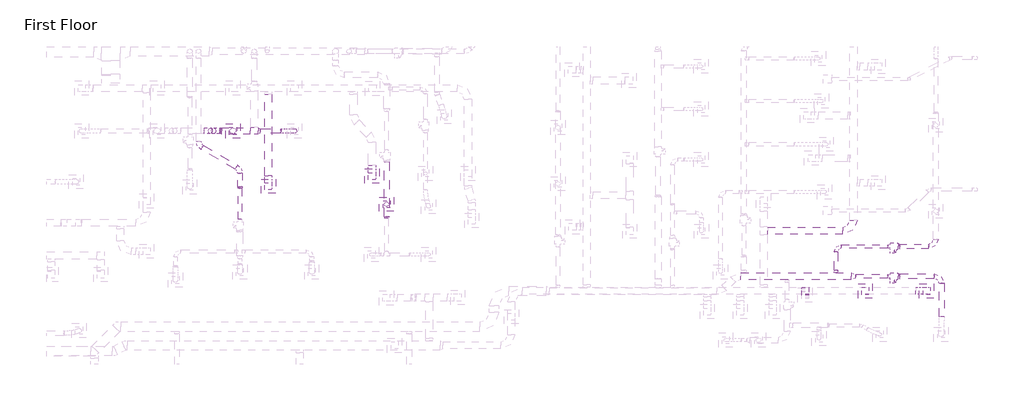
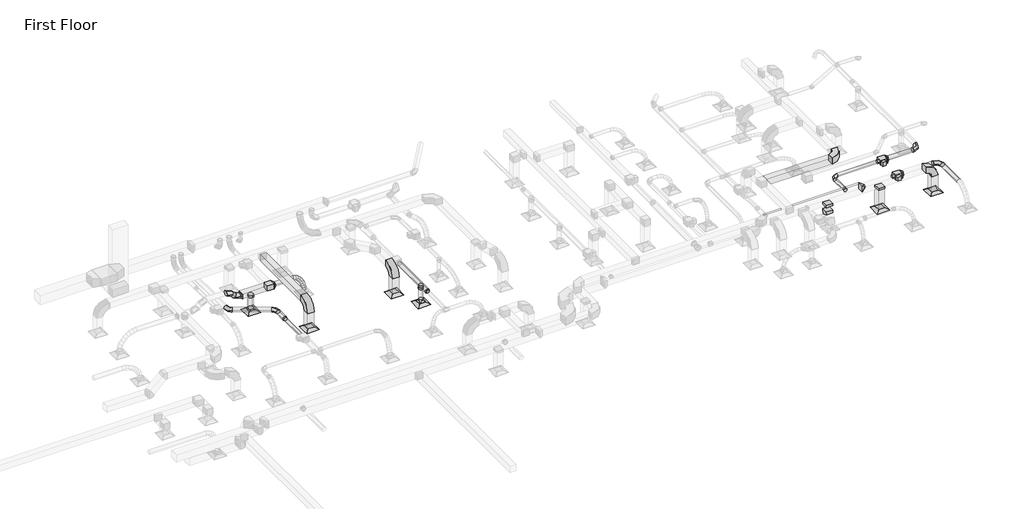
# One storey, part 22 of 61: 27 duct fittings, 24 duct segments, 6 air terminals, 2 proxies.
"""IFC4 building model written with IfcOpenShell, lengths in millimetres."""

from ifc_helpers import new_model, si_unit, point, frame, frame_2d, origin, place, context, project, spatial, polyline, circle_curve, ellipse_curve, trimmed, segment, composite_curve, outline, extrude, transform, mapped, element, save
from ifc_brep_helpers import plane_surface, cylinder_surface, advanced_brep
from components import m_exhaust_grill_er_600_x_600_face_300_x_300_connection_ff221211, m_vav_unit_single_duct_150_mm_ffdab17b, m_rectangular_elbow_radius_1_5_w_86011e9f, m_rectangular_elbow_radius_1_5_w_cf455037, m_rectangular_takeoff_standard_c00386d1, m_rectangular_takeoff_standard_b44bfa45, m_rectangular_tee_standard_b73c3011, m_rectangular_to_round_transition_angle_45_degree_60daae35, m_rectangular_to_round_transition_angle_45_degree_1b7ae117, m_rectangular_to_round_transition_angle_45_degree_5bab159d, m_rectangular_to_round_transition_angle_45_degree_bcd8e40a, m_rectangular_to_round_transition_angle_45_degree_fab4045a, m_rectangular_to_round_transition_angle_45_degree_e507fccd, m_round_elbow_1_5_d_2e586196, m_round_elbow_1_5_d_b7bc3624, m_round_elbow_1_5_d_6facac79, m_round_elbow_1_5_d_0fd14416, m_round_takeoff_standard_2721f8a4, m_round_takeoff_standard_3c6c0435, m_round_takeoff_standard_c62ca294, m_round_transition_angle_45_degree_3fc7b733, m_round_transition_angle_45_degree_6d7b59ce

model = new_model("IFC4")

# Units and contexts
model_context = context("Model", 3, world=origin())
ifc_project = project(units=[si_unit("LENGTHUNIT", "METRE", prefix="MILLI")], contexts=[model_context])

# Site, building, storey
site = spatial("IfcSite", under=ifc_project)
building = spatial("IfcBuilding", under=site)
storey = spatial("IfcBuildingStorey", under=building, Name="First Floor", Elevation=0.0)

# Air terminals
placement = place(None, origin())
m_exhaust_grill_er_600_x_600_face_300_x_300_connection_shape = m_exhaust_grill_er_600_x_600_face_300_x_300_connection_ff221211(model_context)
element("IfcAirTerminal", 1, ObjectType="M_Return Register : RR-600 x 600 Face 300 x 300 Connection", at=placement, inside=storey, context=model_context, shape_type="MappedRepresentation", body=[
    mapped(m_exhaust_grill_er_600_x_600_face_300_x_300_connection_shape, transform((-1444.6339581, 13054.4648445, 2680.0), x_axis=(1.0, 0.0, 0.0), y_axis=(0.0, 1.0, 0.0), z_axis=(0.0, 0.0, 1.0))),
])
element("IfcAirTerminal", 2, ObjectType="M_Return Register : RR-600 x 600 Face 300 x 300 Connection", at=placement, inside=storey, context=model_context, shape_type="MappedRepresentation", body=[
    mapped(m_exhaust_grill_er_600_x_600_face_300_x_300_connection_shape, transform((-4013.3755572, 13054.4648445, 2680.0), x_axis=(1.0, 0.0, 0.0), y_axis=(0.0, 1.0, 0.0), z_axis=(0.0, 0.0, 1.0))),
])
element("IfcAirTerminal", 3, ObjectType="M_Return Register : RR-600 x 600 Face 300 x 300 Connection", at=placement, inside=storey, context=model_context, shape_type="MappedRepresentation", body=[
    mapped(m_exhaust_grill_er_600_x_600_face_300_x_300_connection_shape, transform((-24645.9664299, 17856.3682624, 2680.0), x_axis=(1.0, 0.0, 0.0), y_axis=(0.0, 1.0, 0.0), z_axis=(0.0, 0.0, 1.0))),
])
element("IfcAirTerminal", 4, ObjectType="M_Return Register : RR-600 x 600 Face 300 x 300 Connection", at=placement, inside=storey, context=model_context, shape_type="MappedRepresentation", body=[
    mapped(m_exhaust_grill_er_600_x_600_face_300_x_300_connection_shape, transform((-28982.8236084, 17431.5961294, 2680.0), x_axis=(1.0, 0.0, 0.0), y_axis=(0.0, 1.0, 0.0), z_axis=(0.0, 0.0, 1.0))),
])
element("IfcAirTerminal", 5, ObjectType="M_Supply Diffuser : SD-600 x 600 Face 300 x 300 Connection", at=placement, inside=storey, context=model_context, shape_type="MappedRepresentation", body=[
    mapped(m_exhaust_grill_er_600_x_600_face_300_x_300_connection_shape, transform((-30462.8586725, 19747.3013059, 2680.0), x_axis=(1.0, 0.0, 0.0), y_axis=(0.0, 1.0, 0.0), z_axis=(0.0, 0.0, 1.0))),
])
element("IfcAirTerminal", 6, ObjectType="M_Supply Diffuser : SD-600 x 600 Face 300 x 300 Connection", at=placement, inside=storey, context=model_context, shape_type="MappedRepresentation", body=[
    mapped(m_exhaust_grill_er_600_x_600_face_300_x_300_connection_shape, transform((-24034.890372, 16681.6358863, 2680.0), x_axis=(1.0, 0.0, 0.0), y_axis=(0.0, 1.0, 0.0), z_axis=(0.0, 0.0, 1.0))),
])

# Proxies
m_vav_unit_single_duct_150_mm_shape = m_vav_unit_single_duct_150_mm_ffdab17b(model_context)
element("IfcBuildingElementProxy", 7, Name="M_VAV Unit - Single Duct : 150 mm", ObjectType="M_VAV Unit - Single Duct : 150 mm", at=placement, inside=storey, context=model_context, shape_type="MappedRepresentation", body=[
    mapped(m_vav_unit_single_duct_150_mm_shape, transform((-2971.6072799, 13665.2648697, 3499.97496), x_axis=(1.0, 0.0, 0.0), y_axis=(0.0, 1.0, 0.0), z_axis=(0.0, 0.0, 1.0))),
])
element("IfcBuildingElementProxy", 8, Name="M_VAV Unit - Single Duct : 150 mm", ObjectType="M_VAV Unit - Single Duct : 150 mm", at=placement, inside=storey, context=model_context, shape_type="MappedRepresentation", body=[
    mapped(m_vav_unit_single_duct_150_mm_shape, transform((-2971.6072799, 14916.6573912, 3500.0), x_axis=(1.0, 0.0, 0.0), y_axis=(0.0, 1.0, 0.0), z_axis=(0.0, 0.0, 1.0))),
])

# Duct fittings
m_rectangular_elbow_radius_1_5_w_shape = m_rectangular_elbow_radius_1_5_w_86011e9f(model_context)
element("IfcDuctFitting", 9, ObjectType="M_Rectangular Elbow - Radius : 1.5 W", at=placement, inside=storey, context=model_context, shape_type="MappedRepresentation", body=[
    mapped(m_rectangular_elbow_radius_1_5_w_shape, transform((-1444.6339581, 13054.4648445, 4000.0), x_axis=(0.0, 0.0, 1.0), y_axis=(-1.0, 0.0, 0.0), z_axis=(0.0, -1.0, 0.0))),
])
element("IfcDuctFitting", 10, ObjectType="M_Rectangular Elbow - Radius : 1.5 W", at=placement, inside=storey, context=model_context, shape_type="MappedRepresentation", body=[
    mapped(m_rectangular_elbow_radius_1_5_w_shape, transform((-4500.4325102, 15569.0358848, 4000.0), x_axis=(1.0, 0.0, 0.0), y_axis=(0.0, 1.0, 0.0), z_axis=(0.0, 0.0, 1.0))),
])
element("IfcDuctFitting", 11, ObjectType="M_Rectangular Elbow - Radius : 1.5 W", at=placement, inside=storey, context=model_context, shape_type="MappedRepresentation", body=[
    mapped(m_rectangular_elbow_radius_1_5_w_shape, transform((-28982.8236084, 17431.5961294, 4000.0), x_axis=(0.0, 0.0, 1.0), y_axis=(0.0, 1.0, 0.0), z_axis=(-1.0, 0.0, 0.0))),
])
element("IfcDuctFitting", 12, ObjectType="M_Rectangular Elbow - Radius : 1.5 W", at=placement, inside=storey, context=model_context, shape_type="MappedRepresentation", body=[
    mapped(m_rectangular_elbow_radius_1_5_w_shape, transform((-24645.9664299, 17856.3682624, 4000.0), x_axis=(0.0, 0.0, 1.0), y_axis=(0.0, 1.0, 0.0), z_axis=(-1.0, 0.0, 0.0))),
])
m_rectangular_elbow_radius_1_5_w_2_shape = m_rectangular_elbow_radius_1_5_w_cf455037(model_context)
element("IfcDuctFitting", 13, ObjectType="M_Rectangular Elbow - Radius : 1.5 W", at=placement, inside=storey, context=model_context, shape_type="MappedRepresentation", body=[
    mapped(m_rectangular_elbow_radius_1_5_w_2_shape, transform((-6528.2669518, 13054.4648445, 3437.9257886), x_axis=(0.0, 0.42261826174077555, 0.9063077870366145), y_axis=(0.0, -0.9063077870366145, 0.42261826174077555), z_axis=(1.0, 0.0, 0.0))),
])
m_rectangular_takeoff_standard_shape = m_rectangular_takeoff_standard_c00386d1(model_context)
element("IfcDuctFitting", 14, ObjectType="M_Rectangular Takeoff : Standard", at=placement, inside=storey, context=model_context, shape_type="MappedRepresentation", body=[
    mapped(m_rectangular_takeoff_standard_shape, transform((-6528.2669518, 13054.4648445, 3850.0), x_axis=(0.0, 0.0, -1.0), y_axis=(-1.0, 0.0, 0.0), z_axis=(0.0, 1.0, 0.0))),
])
m_rectangular_takeoff_standard_2_shape = m_rectangular_takeoff_standard_b44bfa45(model_context)
element("IfcDuctFitting", 15, ObjectType="M_Rectangular Takeoff : Standard", at=placement, inside=storey, context=model_context, shape_type="MappedRepresentation", body=[
    mapped(m_rectangular_takeoff_standard_2_shape, transform((-4013.3755572, 13054.4648445, 3850.0), x_axis=(0.0, 0.0, -1.0), y_axis=(1.0, 0.0, 0.0), z_axis=(0.0, -1.0, 0.0))),
])
m_rectangular_tee_standard_shape = m_rectangular_tee_standard_b73c3011(model_context)
element("IfcDuctFitting", 16, ObjectType="M_Rectangular Tee : Standard", at=placement, inside=storey, context=model_context, shape_type="MappedRepresentation", body=[
    mapped(m_rectangular_tee_standard_shape, transform((-29574.4400538, 19747.3013059, 3644.1), x_axis=(-1.0, 0.0, 0.0), y_axis=(0.0, -1.0, 0.0), z_axis=(0.0, 0.0, 1.0))),
])
m_rectangular_to_round_transition_angle_45_degree_shape = m_rectangular_to_round_transition_angle_45_degree_60daae35(model_context)
element("IfcDuctFitting", 17, ObjectType="M_Rectangular to Round Transition - Angle : 45 Degree", at=placement, inside=storey, context=model_context, shape_type="MappedRepresentation", body=[
    mapped(m_rectangular_to_round_transition_angle_45_degree_shape, transform((-24034.890372, 16681.6358863, 2781.6), x_axis=(0.0, 0.0, 1.0), y_axis=(1.0, 0.0, 0.0), z_axis=(0.0, 1.0, 0.0))),
])
m_rectangular_to_round_transition_angle_45_degree_2_shape = m_rectangular_to_round_transition_angle_45_degree_1b7ae117(model_context)
element("IfcDuctFitting", 18, ObjectType="M_Rectangular to Round Transition - Angle : 45 Degree", at=placement, inside=storey, context=model_context, shape_type="MappedRepresentation", body=[
    mapped(m_rectangular_to_round_transition_angle_45_degree_2_shape, transform((-2628.8072799, 13665.2648697, 3619.02496), x_axis=(1.0, 0.0, 0.0), y_axis=(0.0, 1.0, 0.0), z_axis=(0.0, 0.0, 1.0))),
])
element("IfcDuctFitting", 19, ObjectType="M_Rectangular to Round Transition - Angle : 45 Degree", at=placement, inside=storey, context=model_context, shape_type="MappedRepresentation", body=[
    mapped(m_rectangular_to_round_transition_angle_45_degree_2_shape, transform((-2628.8072799, 14916.6573912, 3619.05), x_axis=(1.0, 0.0, 0.0), y_axis=(0.0, 1.0, 0.0), z_axis=(0.0, 0.0, 1.0))),
])
m_rectangular_to_round_transition_angle_45_degree_3_shape = m_rectangular_to_round_transition_angle_45_degree_5bab159d(model_context)
element("IfcDuctFitting", 20, ObjectType="M_Rectangular to Round Transition - Angle : 45 Degree", at=placement, inside=storey, context=model_context, shape_type="MappedRepresentation", body=[
    mapped(m_rectangular_to_round_transition_angle_45_degree_3_shape, transform((-30462.8586725, 19747.3013059, 2781.6), x_axis=(0.0, 0.0, 1.0), y_axis=(0.0, 1.0, 0.0), z_axis=(-1.0, 0.0, 0.0))),
])
m_rectangular_to_round_transition_angle_45_degree_4_shape = m_rectangular_to_round_transition_angle_45_degree_bcd8e40a(model_context)
element("IfcDuctFitting", 21, ObjectType="M_Rectangular to Round Transition - Angle : 45 Degree", at=placement, inside=storey, context=model_context, shape_type="MappedRepresentation", body=[
    mapped(m_rectangular_to_round_transition_angle_45_degree_4_shape, transform((-4593.562619, 13666.1148697, 3609.497913), x_axis=(0.9999999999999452, 0.0, -3.312819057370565e-07), y_axis=(0.0, 1.0, 0.0), z_axis=(3.312819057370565e-07, 0.0, 0.9999999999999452))),
])
m_rectangular_to_round_transition_angle_45_degree_5_shape = m_rectangular_to_round_transition_angle_45_degree_fab4045a(model_context)
element("IfcDuctFitting", 22, ObjectType="M_Rectangular to Round Transition - Angle : 45 Degree", at=placement, inside=storey, context=model_context, shape_type="MappedRepresentation", body=[
    mapped(m_rectangular_to_round_transition_angle_45_degree_5_shape, transform((-29411.9400538, 19747.3013059, 3644.1), x_axis=(1.0, 0.0, 0.0), y_axis=(0.0, 1.0, 0.0), z_axis=(0.0, 0.0, 1.0))),
])
m_rectangular_to_round_transition_angle_45_degree_6_shape = m_rectangular_to_round_transition_angle_45_degree_e507fccd(model_context)
element("IfcDuctFitting", 23, ObjectType="M_Rectangular to Round Transition - Angle : 45 Degree", at=placement, inside=storey, context=model_context, shape_type="MappedRepresentation", body=[
    mapped(m_rectangular_to_round_transition_angle_45_degree_6_shape, transform((-30934.4400538, 19747.3013059, 3644.1), x_axis=(-1.0, 0.0, 0.0), y_axis=(0.0, -1.0, 0.0), z_axis=(0.0, 0.0, 1.0))),
])
m_round_elbow_1_5_d_shape = m_round_elbow_1_5_d_2e586196(model_context)
element("IfcDuctFitting", 24, ObjectType="M_Round Elbow : 1.5 D", at=placement, inside=storey, context=model_context, shape_type="MappedRepresentation", body=[
    mapped(m_round_elbow_1_5_d_shape, transform((-5233.2072799, 14917.5073912, 3609.5), x_axis=(-0.9999999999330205, 0.0, -1.157407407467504e-05), y_axis=(0.0, -1.0000000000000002, 0.0), z_axis=(-1.157407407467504e-05, 0.0, 0.9999999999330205))),
])
m_round_elbow_1_5_d_2_shape = m_round_elbow_1_5_d_b7bc3624(model_context)
element("IfcDuctFitting", 25, ObjectType="M_Round Elbow : 1.5 D", at=placement, inside=storey, context=model_context, shape_type="MappedRepresentation", body=[
    mapped(m_round_elbow_1_5_d_2_shape, transform((-815.9158996, 13665.2648697, 3619.07496), x_axis=(0.0, 1.0, 0.0), y_axis=(-1.0, 0.0, 0.0), z_axis=(0.0, 0.0, 1.0))),
])
element("IfcDuctFitting", 26, ObjectType="M_Round Elbow : 1.5 D", at=placement, inside=storey, context=model_context, shape_type="MappedRepresentation", body=[
    mapped(m_round_elbow_1_5_d_2_shape, transform((-1059.7279224, 14916.6573912, 3619.1), x_axis=(1.0, 0.0, 0.0), y_axis=(0.0, 1.0, 0.0), z_axis=(0.0, 0.0, 1.0))),
])
m_round_elbow_1_5_d_3_shape = m_round_elbow_1_5_d_6facac79(model_context)
element("IfcDuctFitting", 27, ObjectType="M_Round Elbow : 1.5 D", at=placement, inside=storey, context=model_context, shape_type="MappedRepresentation", body=[
    mapped(m_round_elbow_1_5_d_3_shape, transform((-31164.6177233, 19747.3013059, 3644.1), x_axis=(-1.0, 0.0, 0.0), y_axis=(0.0, 0.0, 1.0), z_axis=(0.0, 1.0, 0.0))),
])
element("IfcDuctFitting", 28, ObjectType="M_Round Elbow : 1.5 D", at=placement, inside=storey, context=model_context, shape_type="MappedRepresentation", body=[
    mapped(m_round_elbow_1_5_d_3_shape, transform((-31518.1711139, 19747.3013059, 3997.6533906), x_axis=(-0.7071067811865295, 0.0, 0.7071067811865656), y_axis=(-0.7071067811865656, 0.0, -0.7071067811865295), z_axis=(0.0, -1.0, 0.0))),
])
m_round_elbow_1_5_d_4_shape = m_round_elbow_1_5_d_0fd14416(model_context)
element("IfcDuctFitting", 29, ObjectType="M_Round Elbow : 1.5 D", at=placement, inside=storey, context=model_context, shape_type="MappedRepresentation", body=[
    mapped(m_round_elbow_1_5_d_4_shape, transform((-30172.7602802, 18144.704531, 3609.5), x_axis=(0.0, 0.9999999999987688, 1.5692394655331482e-06), y_axis=(-0.9999999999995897, 1.4217322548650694e-12, -9.060008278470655e-07), z_axis=(-9.06000827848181e-07, -1.5692394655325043e-06, 0.9999999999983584))),
])
element("IfcDuctFitting", 30, ObjectType="M_Round Elbow : 1.5 D", at=placement, inside=storey, context=model_context, shape_type="MappedRepresentation", body=[
    mapped(m_round_elbow_1_5_d_4_shape, transform((-31904.8110878, 19144.704531, 3609.5), x_axis=(0.0, -1.0, 0.0), y_axis=(1.0, 0.0, 0.0), z_axis=(0.0, 0.0, 1.0))),
])
m_round_takeoff_standard_shape = m_round_takeoff_standard_2721f8a4(model_context)
element("IfcDuctFitting", 31, ObjectType="M_Round Takeoff : Standard", at=placement, inside=storey, context=model_context, shape_type="MappedRepresentation", body=[
    mapped(m_round_takeoff_standard_shape, transform((-5233.2072799, 13816.1148697, 3609.5), x_axis=(0.0, 1.0, 0.0), y_axis=(1.0, 0.0, 0.0), z_axis=(0.0, 0.0, -1.0))),
])
m_round_takeoff_standard_2_shape = m_round_takeoff_standard_3c6c0435(model_context)
element("IfcDuctFitting", 32, ObjectType="M_Round Takeoff : Standard", at=placement, inside=storey, context=model_context, shape_type="MappedRepresentation", body=[
    mapped(m_round_takeoff_standard_2_shape, transform((-30462.8586725, 19747.3013059, 3519.1), x_axis=(0.0, 0.0, -1.0), y_axis=(0.0, -1.0, 0.0), z_axis=(-1.0, 0.0, 0.0))),
])
m_round_takeoff_standard_3_shape = m_round_takeoff_standard_c62ca294(model_context)
element("IfcDuctFitting", 33, ObjectType="M_Round Takeoff : Standard", at=placement, inside=storey, context=model_context, shape_type="MappedRepresentation", body=[
    mapped(m_round_takeoff_standard_3_shape, transform((-24034.890372, 16681.6358863, 3519.1), x_axis=(0.0, 0.0, -1.0), y_axis=(-1.0, 0.0, 0.0), z_axis=(0.0, 1.0, 0.0))),
])
m_round_transition_angle_45_degree_shape = m_round_transition_angle_45_degree_3fc7b733(model_context)
element("IfcDuctFitting", 34, ObjectType="M_Round Transition - Angle : 45 Degree", at=placement, inside=storey, context=model_context, shape_type="MappedRepresentation", body=[
    mapped(m_round_transition_angle_45_degree_shape, transform((-30172.7602802, 17344.704531, 3609.5), x_axis=(0.0, 0.9999999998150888, -1.923076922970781e-05), y_axis=(-1.0, 0.0, 0.0), z_axis=(0.0, 1.923076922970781e-05, 0.9999999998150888))),
])
m_round_transition_angle_45_degree_2_shape = m_round_transition_angle_45_degree_6d7b59ce(model_context)
element("IfcDuctFitting", 35, ObjectType="M_Round Transition - Angle : 45 Degree", at=placement, inside=storey, context=model_context, shape_type="MappedRepresentation", body=[
    mapped(m_round_transition_angle_45_degree_2_shape, transform((-24034.890372, 16157.8043191, 3619.1), x_axis=(0.0, -1.0, 0.0), y_axis=(1.0, 0.0, 0.0), z_axis=(0.0, 0.0, 1.0))),
])

# Duct segments
element("IfcDuctSegment", 36, ObjectType="Flex - Round", at=placement, inside=storey, context=model_context, shape_type="AdvancedBrep", body=[
    advanced_brep(
    [(-28451.9400538, 19847.3013059, 3644.1), (-28468.6595416, 19747.3013059, 3545.5076132), (-28451.9400538, 19647.3013059, 3644.1), (-28435.220566, 19747.3013059, 3742.6923868), (-28338.920624, 19847.3013059, 3624.9339463), (-28370.5401943, 19747.3013059, 3528.8683444), (-28338.920624, 19647.3013059, 3624.9339463), (-28307.3010536, 19747.3013059, 3720.9995482), (-27891.8705544, 19847.3013059, 2902.3106781), (-27792.3094461, 19747.3013059, 2911.6694025), (-27891.8705544, 19647.3013059, 2902.3106781), (-27991.4316627, 19747.3013059, 2892.9519538), (-28233.7213591, 19847.3013059, 3571.7646969), (-28289.3794868, 19747.3013059, 3487.848534), (-28233.7213591, 19647.3013059, 3571.7646969), (-28178.0632314, 19747.3013059, 3655.6808599), (-28138.5765685, 19847.3013059, 3491.0856195), (-28210.2808967, 19747.3013059, 3420.7760097), (-28138.5765685, 19647.3013059, 3491.0856195), (-28066.8722404, 19747.3013059, 3561.3952293), (-28055.7205615, 19847.3013059, 3389.3900816), (-28138.0609214, 19747.3013059, 3332.13489), (-28055.7205615, 19647.3013059, 3389.3900816), (-27973.3802017, 19747.3013059, 3446.6452733), (-27987.3876473, 19847.3013059, 3273.171451), (-28077.0957244, 19747.3013059, 3228.4470583), (-27987.3876473, 19647.3013059, 3273.171451), (-27897.6795702, 19747.3013059, 3317.8958436), (-27935.8121352, 19847.3013059, 3148.9230951), (-28030.8588521, 19747.3013059, 3117.0597907), (-27935.8121352, 19647.3013059, 3148.9230951), (-27840.7654183, 19747.3013059, 3180.7863995), (-27903.2283345, 19847.3013059, 3023.1383816), (-28002.0403294, 19747.3013059, 3005.8103497), (-27903.2283345, 19647.3013059, 3023.1383816), (-27804.4163395, 19747.3013059, 3040.4664135)],
    [
        (0, 1, circle_curve(frame((-28451.9400538, 19747.3013059, 3644.1), z_axis=(-0.9859238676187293, 0.0, 0.16719487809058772), x_axis=(0.0, 1.0, 0.0)), 100.0)),
        (1, 2, circle_curve(frame((-28451.9400538, 19747.3013059, 3644.1), z_axis=(-0.9859238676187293, 0.0, 0.16719487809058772), x_axis=(0.0, 1.0, 0.0)), 100.0)),
        (2, 3, circle_curve(frame((-28451.9400538, 19747.3013059, 3644.1), z_axis=(-0.9859238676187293, 0.0, 0.16719487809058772), x_axis=(0.0, 1.0, 0.0)), 100.0)),
        (3, 0, circle_curve(frame((-28451.9400538, 19747.3013059, 3644.1), z_axis=(-0.9859238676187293, 0.0, 0.16719487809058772), x_axis=(0.0, 1.0, 0.0)), 100.0)),
        (0, 4),
        (4, 5, ellipse_curve(frame((-28338.920624, 19747.3013059, 3624.9339463), z_axis=(-0.9498698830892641, 0.0, 0.3126454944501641), x_axis=(-0.31264549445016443, 0.0, -0.9498698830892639)), 101.1355383, 100.0)),
        (5, 1),
        (5, 6, ellipse_curve(frame((-28338.920624, 19747.3013059, 3624.9339463), z_axis=(-0.9498698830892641, 0.0, 0.3126454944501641), x_axis=(-0.31264549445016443, 0.0, -0.9498698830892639)), 101.1355383, 100.0)),
        (6, 2),
        (6, 7, ellipse_curve(frame((-28338.920624, 19747.3013059, 3624.9339463), z_axis=(-0.9498698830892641, 0.0, 0.3126454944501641), x_axis=(-0.31264549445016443, 0.0, -0.9498698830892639)), 101.1355383, 100.0)),
        (7, 3),
        (7, 4, ellipse_curve(frame((-28338.920624, 19747.3013059, 3624.9339463), z_axis=(-0.9498698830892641, 0.0, 0.3126454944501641), x_axis=(-0.31264549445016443, 0.0, -0.9498698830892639)), 101.1355383, 100.0)),
        (8, 9, circle_curve(frame((-27891.8705544, 19747.3013059, 2902.3106781), z_axis=(0.09358724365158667, 0.0, -0.9956110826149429), x_axis=(0.0, 1.0, 0.0)), 100.0)),
        (9, 10, circle_curve(frame((-27891.8705544, 19747.3013059, 2902.3106781), z_axis=(0.09358724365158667, 0.0, -0.9956110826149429), x_axis=(0.0, 1.0, 0.0)), 100.0)),
        (10, 11, circle_curve(frame((-27891.8705544, 19747.3013059, 2902.3106781), z_axis=(0.09358724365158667, 0.0, -0.9956110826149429), x_axis=(0.0, 1.0, 0.0)), 100.0)),
        (11, 8, circle_curve(frame((-27891.8705544, 19747.3013059, 2902.3106781), z_axis=(0.09358724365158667, 0.0, -0.9956110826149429), x_axis=(0.0, 1.0, 0.0)), 100.0)),
        (4, 12),
        (12, 13, ellipse_curve(frame((-28233.7213591, 19747.3013059, 3571.7646969), z_axis=(-0.8333587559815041, 0.0, 0.5527324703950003), x_axis=(-0.5527324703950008, 0.0, -0.8333587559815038)), 100.6963236, 100.0)),
        (13, 5),
        (13, 14, ellipse_curve(frame((-28233.7213591, 19747.3013059, 3571.7646969), z_axis=(-0.8333587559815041, 0.0, 0.5527324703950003), x_axis=(-0.5527324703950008, 0.0, -0.8333587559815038)), 100.6963236, 100.0)),
        (14, 6),
        (14, 15, ellipse_curve(frame((-28233.7213591, 19747.3013059, 3571.7646969), z_axis=(-0.8333587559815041, 0.0, 0.5527324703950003), x_axis=(-0.5527324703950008, 0.0, -0.8333587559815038)), 100.6963236, 100.0)),
        (15, 7),
        (15, 12, ellipse_curve(frame((-28233.7213591, 19747.3013059, 3571.7646969), z_axis=(-0.8333587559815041, 0.0, 0.5527324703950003), x_axis=(-0.5527324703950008, 0.0, -0.8333587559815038)), 100.6963236, 100.0)),
        (12, 16),
        (16, 17, ellipse_curve(frame((-28138.5765685, 19747.3013059, 3491.0856195), z_axis=(-0.7001285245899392, 0.0, 0.7140168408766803), x_axis=(-0.7140168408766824, 0.0, -0.7001285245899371)), 100.4238612, 100.0)),
        (17, 13),
        (17, 18, ellipse_curve(frame((-28138.5765685, 19747.3013059, 3491.0856195), z_axis=(-0.7001285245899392, 0.0, 0.7140168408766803), x_axis=(-0.7140168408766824, 0.0, -0.7001285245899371)), 100.4238612, 100.0)),
        (18, 14),
        (18, 19, ellipse_curve(frame((-28138.5765685, 19747.3013059, 3491.0856195), z_axis=(-0.7001285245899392, 0.0, 0.7140168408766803), x_axis=(-0.7140168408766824, 0.0, -0.7001285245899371)), 100.4238612, 100.0)),
        (19, 15),
        (19, 16, ellipse_curve(frame((-28138.5765685, 19747.3013059, 3491.0856195), z_axis=(-0.7001285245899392, 0.0, 0.7140168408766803), x_axis=(-0.7140168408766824, 0.0, -0.7001285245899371)), 100.4238612, 100.0)),
        (16, 20),
        (20, 21, ellipse_curve(frame((-28055.7205615, 19747.3013059, 3389.3900816), z_axis=(-0.5708960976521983, 0.0, 0.8210223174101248), x_axis=(-0.8210223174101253, 0.0, -0.5708960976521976)), 100.2900385, 100.0)),
        (21, 17),
        (21, 22, ellipse_curve(frame((-28055.7205615, 19747.3013059, 3389.3900816), z_axis=(-0.5708960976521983, 0.0, 0.8210223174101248), x_axis=(-0.8210223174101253, 0.0, -0.5708960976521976)), 100.2900385, 100.0)),
        (22, 18),
        (22, 23, ellipse_curve(frame((-28055.7205615, 19747.3013059, 3389.3900816), z_axis=(-0.5708960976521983, 0.0, 0.8210223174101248), x_axis=(-0.8210223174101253, 0.0, -0.5708960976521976)), 100.2900385, 100.0)),
        (23, 19),
        (23, 20, ellipse_curve(frame((-28055.7205615, 19747.3013059, 3389.3900816), z_axis=(-0.5708960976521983, 0.0, 0.8210223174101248), x_axis=(-0.8210223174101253, 0.0, -0.5708960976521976)), 100.2900385, 100.0)),
        (20, 24),
        (24, 25, ellipse_curve(frame((-27987.3876473, 19747.3013059, 3273.171451), z_axis=(-0.44617859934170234, 0.0, 0.8949439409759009), x_axis=(-0.8949439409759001, 0.0, -0.4461785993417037)), 100.2387669, 100.0)),
        (25, 21),
        (25, 26, ellipse_curve(frame((-27987.3876473, 19747.3013059, 3273.171451), z_axis=(-0.44617859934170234, 0.0, 0.8949439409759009), x_axis=(-0.8949439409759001, 0.0, -0.4461785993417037)), 100.2387669, 100.0)),
        (26, 22),
        (26, 27, ellipse_curve(frame((-27987.3876473, 19747.3013059, 3273.171451), z_axis=(-0.44617859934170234, 0.0, 0.8949439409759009), x_axis=(-0.8949439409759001, 0.0, -0.4461785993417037)), 100.2387669, 100.0)),
        (27, 23),
        (27, 24, ellipse_curve(frame((-27987.3876473, 19747.3013059, 3273.171451), z_axis=(-0.44617859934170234, 0.0, 0.8949439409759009), x_axis=(-0.8949439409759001, 0.0, -0.4461785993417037)), 100.2387669, 100.0)),
        (24, 28),
        (28, 29, ellipse_curve(frame((-27935.8121352, 19747.3013059, 3148.9230951), z_axis=(-0.3178529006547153, 0.0, 0.9481400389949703), x_axis=(-0.9481400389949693, 0.0, -0.31785290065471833)), 100.2454416, 100.0)),
        (29, 25),
        (29, 30, ellipse_curve(frame((-27935.8121352, 19747.3013059, 3148.9230951), z_axis=(-0.3178529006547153, 0.0, 0.9481400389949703), x_axis=(-0.9481400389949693, 0.0, -0.31785290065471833)), 100.2454416, 100.0)),
        (30, 26),
        (30, 31, ellipse_curve(frame((-27935.8121352, 19747.3013059, 3148.9230951), z_axis=(-0.3178529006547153, 0.0, 0.9481400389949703), x_axis=(-0.9481400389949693, 0.0, -0.31785290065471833)), 100.2454416, 100.0)),
        (31, 27),
        (31, 28, ellipse_curve(frame((-27935.8121352, 19747.3013059, 3148.9230951), z_axis=(-0.3178529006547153, 0.0, 0.9481400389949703), x_axis=(-0.9481400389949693, 0.0, -0.31785290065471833)), 100.2454416, 100.0)),
        (28, 32),
        (32, 33, ellipse_curve(frame((-27903.2283345, 19747.3013059, 3023.1383816), z_axis=(-0.1727278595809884, 0.0, 0.9849695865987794), x_axis=(-0.9849695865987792, 0.0, -0.17272785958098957)), 100.3198437, 100.0)),
        (33, 29),
        (33, 34, ellipse_curve(frame((-27903.2283345, 19747.3013059, 3023.1383816), z_axis=(-0.1727278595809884, 0.0, 0.9849695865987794), x_axis=(-0.9849695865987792, 0.0, -0.17272785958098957)), 100.3198437, 100.0)),
        (34, 30),
        (34, 35, ellipse_curve(frame((-27903.2283345, 19747.3013059, 3023.1383816), z_axis=(-0.1727278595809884, 0.0, 0.9849695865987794), x_axis=(-0.9849695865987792, 0.0, -0.17272785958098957)), 100.3198437, 100.0)),
        (35, 31),
        (35, 32, ellipse_curve(frame((-27903.2283345, 19747.3013059, 3023.1383816), z_axis=(-0.1727278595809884, 0.0, 0.9849695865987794), x_axis=(-0.9849695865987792, 0.0, -0.17272785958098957)), 100.3198437, 100.0)),
        (32, 8),
        (11, 33),
        (10, 34),
        (9, 35),
    ],
    [
        plane_surface(frame((-28451.9400538, 19847.3013059, 3644.1), z_axis=(-0.98592386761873, 0.0, 0.1671948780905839), x_axis=(0.1671948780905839, 0.0, 0.98592386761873))),
        cylinder_surface(frame((-28451.9400538, 19747.3013059, 3644.1), z_axis=(-0.9859238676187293, 0.0, 0.16719487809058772), x_axis=(0.0, 1.0, 0.0)), 100.0),
        plane_surface(frame((-27891.8705544, 19847.3013059, 2902.3106781), z_axis=(0.09358724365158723, 0.0, -0.9956110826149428), x_axis=(0.9956110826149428, 0.0, 0.09358724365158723))),
        cylinder_surface(frame((-28338.920624, 19747.3013059, 3624.9339463), z_axis=(-0.892485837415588, 0.0, 0.4510754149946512), x_axis=(0.0, 1.0, 0.0)), 100.0),
        cylinder_surface(frame((-28233.7213591, 19747.3013059, 3571.7646969), z_axis=(-0.762706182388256, 0.0, 0.6467451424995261), x_axis=(0.0, 1.0, 0.0)), 100.0),
        cylinder_surface(frame((-28138.5765685, 19747.3013059, 3491.0856195), z_axis=(-0.6316407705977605, 0.0, 0.7752612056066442), x_axis=(0.0, 1.0, 0.0)), 100.0),
        cylinder_surface(frame((-28055.7205615, 19747.3013059, 3389.3900816), z_axis=(-0.506849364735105, 0.0, 0.8620346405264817), x_axis=(0.0, 1.0, 0.0)), 100.0),
        cylinder_surface(frame((-27987.3876473, 19747.3013059, 3273.171451), z_axis=(-0.38338225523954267, 0.0, 0.9235897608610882), x_axis=(0.0, 1.0, 0.0)), 100.0),
        cylinder_surface(frame((-27935.8121352, 19747.3013059, 3148.9230951), z_axis=(-0.2507670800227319, 0.0, 0.9680474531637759), x_axis=(0.0, 1.0, 0.0)), 100.0),
        cylinder_surface(frame((-27903.2283345, 19747.3013059, 3023.1383816), z_axis=(-0.09358724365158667, 0.0, 0.9956110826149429), x_axis=(0.0, 1.0, 0.0)), 100.0),
    ],
    [
        (0, [[1, 2, 3, 4]]),
        (1, [[-1, 5, 6, 7]]),
        (1, [[-2, -7, 8, 9]]),
        (1, [[-3, -9, 10, 11]]),
        (1, [[-4, -11, 12, -5]]),
        (2, [[13, 14, 15, 16]]),
        (3, [[-6, 17, 18, 19]]),
        (3, [[-8, -19, 20, 21]]),
        (3, [[-10, -21, 22, 23]]),
        (3, [[-12, -23, 24, -17]]),
        (4, [[-18, 25, 26, 27]]),
        (4, [[-20, -27, 28, 29]]),
        (4, [[-22, -29, 30, 31]]),
        (4, [[-24, -31, 32, -25]]),
        (5, [[-26, 33, 34, 35]]),
        (5, [[-28, -35, 36, 37]]),
        (5, [[-30, -37, 38, 39]]),
        (5, [[-32, -39, 40, -33]]),
        (6, [[-34, 41, 42, 43]]),
        (6, [[-36, -43, 44, 45]]),
        (6, [[-38, -45, 46, 47]]),
        (6, [[-40, -47, 48, -41]]),
        (7, [[-42, 49, 50, 51]]),
        (7, [[-44, -51, 52, 53]]),
        (7, [[-46, -53, 54, 55]]),
        (7, [[-48, -55, 56, -49]]),
        (8, [[-50, 57, 58, 59]]),
        (8, [[-52, -59, 60, 61]]),
        (8, [[-54, -61, 62, 63]]),
        (8, [[-56, -63, 64, -57]]),
        (9, [[-58, 65, -16, 66]]),
        (9, [[-60, -66, -15, 67]]),
        (9, [[-62, -67, -14, 68]]),
        (9, [[-64, -68, -13, -65]]),
    ],
),
])
element("IfcDuctSegment", 37, ObjectType="Mitered Elbows / Taps", at=placement, inside=storey, context=model_context, shape_type="SweptSolid", body=[
    extrude(outline(polyline([(-29736.9400538, 19884.8013059), (-29736.9400538, 19609.8013059), (-30934.4400538, 19609.8013059), (-30934.4400538, 19884.8013059), (-29736.9400538, 19884.8013059)])), frame((0.0, 0.0, 3519.1), z_axis=(0.0, 0.0, 1.0), x_axis=(1.0, 0.0, 0.0)), (0.0, 0.0, 1.0), 250.0),
])
element("IfcDuctSegment", 38, ObjectType="Radius Elbows / Taps", at=placement, inside=storey, context=model_context, shape_type="SweptSolid", body=[
    extrude(outline(polyline([(-1594.6339581, 12904.4648445), (-1594.6339581, 13204.4648445), (-1294.6339581, 13204.4648445), (-1294.6339581, 12904.4648445), (-1594.6339581, 12904.4648445)])), frame((0.0, 0.0, 2781.6), z_axis=(0.0, 0.0, 1.0), x_axis=(1.0, 0.0, 0.0)), (0.0, 0.0, 1.0), 768.4),
])
element("IfcDuctSegment", 39, ObjectType="Radius Elbows / Taps", at=placement, inside=storey, context=model_context, shape_type="SweptSolid", body=[
    extrude(outline(polyline([(-3863.3755572, 13204.4648445), (-3863.3755572, 12904.4648445), (-4163.3755572, 12904.4648445), (-4163.3755572, 13204.4648445), (-3863.3755572, 13204.4648445)])), frame((0.0, 0.0, 2781.6), z_axis=(0.0, 0.0, 1.0), x_axis=(1.0, 0.0, 0.0)), (0.0, 0.0, 1.0), 968.4),
])
element("IfcDuctSegment", 40, ObjectType="Radius Elbows / Taps", at=placement, inside=storey, context=model_context, shape_type="SweptSolid", body=[
    extrude(outline(polyline([(-4950.4325102, 15719.0358848), (-4950.4325102, 15419.0358848), (-8088.3789506, 15419.0358848), (-8088.3789506, 15719.0358848), (-4950.4325102, 15719.0358848)])), frame((0.0, 0.0, 3850.0), z_axis=(0.0, 0.0, 1.0), x_axis=(1.0, 0.0, 0.0)), (0.0, 0.0, 1.0), 300.0),
])
element("IfcDuctSegment", 41, ObjectType="Radius Elbows / Taps", at=placement, inside=storey, context=model_context, shape_type="SweptSolid", body=[
    extrude(outline(polyline([(-4593.562619, 13816.1148697), (-4593.562619, 13516.1148697), (-9226.8111768, 13516.1148697), (-9226.8111768, 13816.1148697), (-4593.562619, 13816.1148697)])), frame((0.0, 0.0, 3459.497913), z_axis=(0.0, 0.0, 1.0), x_axis=(1.0, 0.0, 0.0)), (0.0, 0.0, 1.0), 300.0),
])
element("IfcDuctSegment", 42, ObjectType="Radius Elbows / Taps", at=placement, inside=storey, context=model_context, shape_type="SweptSolid", body=[
    extrude(outline(polyline([(-29132.8236084, 21277.5562922), (-28832.8236084, 21277.5562922), (-28832.8236084, 17881.5961294), (-29132.8236084, 17881.5961294), (-29132.8236084, 21277.5562922)])), frame((0.0, 0.0, 3850.0), z_axis=(0.0, 0.0, 1.0), x_axis=(1.0, 0.0, 0.0)), (0.0, 0.0, 1.0), 300.0),
])
element("IfcDuctSegment", 43, ObjectType="Radius Elbows / Taps", at=placement, inside=storey, context=model_context, shape_type="SweptSolid", body=[
    extrude(outline(polyline([(-29132.8236084, 17581.5961294), (-28832.8236084, 17581.5961294), (-28832.8236084, 17281.5961294), (-29132.8236084, 17281.5961294), (-29132.8236084, 17581.5961294)])), frame((0.0, 0.0, 2781.6), z_axis=(0.0, 0.0, 1.0), x_axis=(1.0, 0.0, 0.0)), (0.0, 0.0, 1.0), 768.4),
])
element("IfcDuctSegment", 44, ObjectType="Radius Elbows / Taps", at=placement, inside=storey, context=model_context, shape_type="SweptSolid", body=[
    extrude(outline(polyline([(-24795.9664299, 18006.3682624), (-24495.9664299, 18006.3682624), (-24495.9664299, 17706.3682624), (-24795.9664299, 17706.3682624), (-24795.9664299, 18006.3682624)])), frame((0.0, 0.0, 2781.6), z_axis=(0.0, 0.0, 1.0), x_axis=(1.0, 0.0, 0.0)), (0.0, 0.0, 1.0), 768.4),
])
element("IfcDuctSegment", 45, ObjectType="Taps", at=placement, inside=storey, context=model_context, shape_type="SweptSolid", body=[
    extrude(outline(composite_curve([segment(trimmed(circle_curve(frame_2d((0.0, -100.0)), 100.0), [point((0.0, -200.0))], [point((-100.0, -100.0))], False, "CARTESIAN"), True, "CONTINUOUS"), segment(trimmed(circle_curve(frame_2d((0.0, -100.0)), 100.0), [point((-100.0, -100.0))], [point((0.0, 0.0))], False, "CARTESIAN"), True, "CONTINUOUS"), segment(trimmed(circle_curve(frame_2d((0.0, -100.0)), 100.0), [point((0.0, 0.0))], [point((100.0, -100.0))], False, "CARTESIAN"), True, "CONTINUOUS"), segment(trimmed(circle_curve(frame_2d((0.0, -100.0)), 100.0), [point((100.0, -100.0))], [point((0.0, -200.0))], False, "CARTESIAN"), True, "CONTINUOUS")], self_intersect=False)), frame((-915.9158996, 13365.2648697, 3619.07496), z_axis=(0.0, -0.9999999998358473, 1.811920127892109e-05), x_axis=(0.0, 1.811920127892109e-05, 0.9999999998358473)), (0.0, 0.0, 1.0), 1381.9587787),
])
element("IfcDuctSegment", 46, ObjectType="Taps", at=placement, inside=storey, context=model_context, shape_type="SweptSolid", body=[
    extrude(outline(composite_curve([segment(trimmed(circle_curve(frame_2d((13665.2648697, 3619.07496)), 100.0), [point((13565.2648697, 3619.07496))], [point((13665.2648697, 3719.07496))], False, "CARTESIAN"), True, "CONTINUOUS"), segment(trimmed(circle_curve(frame_2d((13665.2648697, 3619.07496)), 100.0), [point((13665.2648697, 3719.07496))], [point((13765.2648697, 3619.07496))], False, "CARTESIAN"), True, "CONTINUOUS"), segment(trimmed(circle_curve(frame_2d((13665.2648697, 3619.07496)), 100.0), [point((13765.2648697, 3619.07496))], [point((13665.2648697, 3519.07496))], False, "CARTESIAN"), True, "CONTINUOUS"), segment(trimmed(circle_curve(frame_2d((13665.2648697, 3619.07496)), 100.0), [point((13665.2648697, 3519.07496))], [point((13565.2648697, 3619.07496))], False, "CARTESIAN"), True, "CONTINUOUS")], self_intersect=False)), frame((-2568.4519408, 0.0, 0.0), z_axis=(1.0, 0.0, 0.0), x_axis=(0.0, 1.0, 0.0)), (0.0, 0.0, 1.0), 1452.5360412),
])
element("IfcDuctSegment", 47, ObjectType="Taps", at=placement, inside=storey, context=model_context, shape_type="SweptSolid", body=[
    extrude(outline(composite_curve([segment(trimmed(circle_curve(frame_2d((13666.1148697, 3609.49996)), 75.0), [point((13741.1148697, 3609.49996))], [point((13666.1148697, 3534.49996))], False, "CARTESIAN"), True, "CONTINUOUS"), segment(trimmed(circle_curve(frame_2d((13666.1148697, 3609.49996)), 75.0), [point((13666.1148697, 3534.49996))], [point((13591.1148697, 3609.49996))], False, "CARTESIAN"), True, "CONTINUOUS"), segment(trimmed(circle_curve(frame_2d((13666.1148697, 3609.49996)), 75.0), [point((13591.1148697, 3609.49996))], [point((13666.1148697, 3684.49996))], False, "CARTESIAN"), True, "CONTINUOUS"), segment(trimmed(circle_curve(frame_2d((13666.1148697, 3609.49996)), 75.0), [point((13666.1148697, 3684.49996))], [point((13741.1148697, 3609.49996))], False, "CARTESIAN"), True, "CONTINUOUS")], self_intersect=False)), frame((-4412.4966018, 0.0, 0.0), z_axis=(1.0, 0.0, 0.0), x_axis=(0.0, 1.0, 0.0)), (0.0, 0.0, 1.0), 1339.2893219),
])
element("IfcDuctSegment", 48, ObjectType="Taps", at=placement, inside=storey, context=model_context, shape_type="SweptSolid", body=[
    extrude(outline(composite_curve([segment(trimmed(circle_curve(frame_2d((14916.6573912, 3619.1)), 100.0), [point((14816.6573912, 3619.1))], [point((14916.6573912, 3719.1))], False, "CARTESIAN"), True, "CONTINUOUS"), segment(trimmed(circle_curve(frame_2d((14916.6573912, 3619.1)), 100.0), [point((14916.6573912, 3719.1))], [point((15016.6573912, 3619.1))], False, "CARTESIAN"), True, "CONTINUOUS"), segment(trimmed(circle_curve(frame_2d((14916.6573912, 3619.1)), 100.0), [point((15016.6573912, 3619.1))], [point((14916.6573912, 3519.1))], False, "CARTESIAN"), True, "CONTINUOUS"), segment(trimmed(circle_curve(frame_2d((14916.6573912, 3619.1)), 100.0), [point((14916.6573912, 3519.1))], [point((14816.6573912, 3619.1))], False, "CARTESIAN"), True, "CONTINUOUS")], self_intersect=False)), frame((-2568.4519408, 0.0, 0.0), z_axis=(1.0, 0.0, 0.0), x_axis=(0.0, 1.0, 0.0)), (0.0, 0.0, 1.0), 1208.7240184),
])
element("IfcDuctSegment", 49, ObjectType="Taps", at=placement, inside=storey, context=model_context, shape_type="SweptSolid", body=[
    extrude(outline(composite_curve([segment(trimmed(circle_curve(frame_2d((0.0, -75.0)), 75.0), [point((-75.0, -75.0))], [point((0.0, 0.0))], False, "CARTESIAN"), True, "CONTINUOUS"), segment(trimmed(circle_curve(frame_2d((0.0, -75.0)), 75.0), [point((0.0, 0.0))], [point((75.0, -75.0))], False, "CARTESIAN"), True, "CONTINUOUS"), segment(trimmed(circle_curve(frame_2d((0.0, -75.0)), 75.0), [point((75.0, -75.0))], [point((0.0, -150.0))], False, "CARTESIAN"), True, "CONTINUOUS"), segment(trimmed(circle_curve(frame_2d((0.0, -75.0)), 75.0), [point((0.0, -150.0))], [point((-75.0, -75.0))], False, "CARTESIAN"), True, "CONTINUOUS")], self_intersect=False)), frame((-5008.2064119, 14917.5073912, 3534.5026042), z_axis=(0.9999999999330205, 0.0, 1.1574074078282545e-05), x_axis=(0.0, -1.0, 0.0)), (0.0, 0.0, 1.0), 1935.0000001),
])
element("IfcDuctSegment", 50, ObjectType="Taps", at=placement, inside=storey, context=model_context, shape_type="SweptSolid", body=[
    extrude(outline(composite_curve([segment(trimmed(circle_curve(frame_2d((3609.5, -5233.2072799)), 75.0), [point((3609.5, -5158.2072799))], [point((3684.5, -5233.2072799))], False, "CARTESIAN"), True, "CONTINUOUS"), segment(trimmed(circle_curve(frame_2d((3609.5, -5233.2072799)), 75.0), [point((3684.5, -5233.2072799))], [point((3609.5, -5308.2072799))], False, "CARTESIAN"), True, "CONTINUOUS"), segment(trimmed(circle_curve(frame_2d((3609.5, -5233.2072799)), 75.0), [point((3609.5, -5308.2072799))], [point((3534.5, -5233.2072799))], False, "CARTESIAN"), True, "CONTINUOUS"), segment(trimmed(circle_curve(frame_2d((3609.5, -5233.2072799)), 75.0), [point((3534.5, -5233.2072799))], [point((3609.5, -5158.2072799))], False, "CARTESIAN"), True, "CONTINUOUS")], self_intersect=False)), frame((0.0, 13916.1148697, 0.0), z_axis=(0.0, 1.0, 0.0), x_axis=(0.0, 0.0, 1.0)), (0.0, 0.0, 1.0), 776.3925215),
])
element("IfcDuctSegment", 51, ObjectType="Taps", at=placement, inside=storey, context=model_context, shape_type="SweptSolid", body=[
    extrude(outline(composite_curve([segment(trimmed(circle_curve(frame_2d((3619.1, -24034.890372)), 100.0), [point((3619.1, -24134.890372))], [point((3519.1, -24034.890372))], False, "CARTESIAN"), True, "CONTINUOUS"), segment(trimmed(circle_curve(frame_2d((3619.1, -24034.890372)), 100.0), [point((3519.1, -24034.890372))], [point((3619.1, -23934.890372))], False, "CARTESIAN"), True, "CONTINUOUS"), segment(trimmed(circle_curve(frame_2d((3619.1, -24034.890372)), 100.0), [point((3619.1, -23934.890372))], [point((3719.1, -24034.890372))], False, "CARTESIAN"), True, "CONTINUOUS"), segment(trimmed(circle_curve(frame_2d((3619.1, -24034.890372)), 100.0), [point((3719.1, -24034.890372))], [point((3619.1, -24134.890372))], False, "CARTESIAN"), True, "CONTINUOUS")], self_intersect=False)), frame((0.0, 16157.8043191, 0.0), z_axis=(0.0, 1.0, 0.0), x_axis=(0.0, 0.0, 1.0)), (0.0, 0.0, 1.0), 2300.0),
])
element("IfcDuctSegment", 52, ObjectType="Taps", at=placement, inside=storey, context=model_context, shape_type="SweptSolid", body=[
    extrude(outline(composite_curve([segment(trimmed(circle_curve(frame_2d((-24034.890372, 16681.6358863)), 100.0), [point((-24134.890372, 16681.6358863))], [point((-24034.890372, 16781.6358863))], False, "CARTESIAN"), True, "CONTINUOUS"), segment(trimmed(circle_curve(frame_2d((-24034.890372, 16681.6358863)), 100.0), [point((-24034.890372, 16781.6358863))], [point((-23934.890372, 16681.6358863))], False, "CARTESIAN"), True, "CONTINUOUS"), segment(trimmed(circle_curve(frame_2d((-24034.890372, 16681.6358863)), 100.0), [point((-23934.890372, 16681.6358863))], [point((-24034.890372, 16581.6358863))], False, "CARTESIAN"), True, "CONTINUOUS"), segment(trimmed(circle_curve(frame_2d((-24034.890372, 16681.6358863)), 100.0), [point((-24034.890372, 16581.6358863))], [point((-24134.890372, 16681.6358863))], False, "CARTESIAN"), True, "CONTINUOUS")], self_intersect=False)), frame((0.0, 0.0, 2902.3106781), z_axis=(0.0, 0.0, 1.0), x_axis=(1.0, 0.0, 0.0)), (0.0, 0.0, 1.0), 516.7893219),
])
element("IfcDuctSegment", 53, ObjectType="Taps", at=placement, inside=storey, context=model_context, shape_type="SweptSolid", body=[
    extrude(outline(composite_curve([segment(trimmed(circle_curve(frame_2d((19747.3013059, 3644.1)), 100.0), [point((19647.3013059, 3644.1))], [point((19747.3013059, 3744.1))], False, "CARTESIAN"), True, "CONTINUOUS"), segment(trimmed(circle_curve(frame_2d((19747.3013059, 3644.1)), 100.0), [point((19747.3013059, 3744.1))], [point((19847.3013059, 3644.1))], False, "CARTESIAN"), True, "CONTINUOUS"), segment(trimmed(circle_curve(frame_2d((19747.3013059, 3644.1)), 100.0), [point((19847.3013059, 3644.1))], [point((19747.3013059, 3544.1))], False, "CARTESIAN"), True, "CONTINUOUS"), segment(trimmed(circle_curve(frame_2d((19747.3013059, 3644.1)), 100.0), [point((19747.3013059, 3544.1))], [point((19647.3013059, 3644.1))], False, "CARTESIAN"), True, "CONTINUOUS")], self_intersect=False)), frame((-29321.4070452, 0.0, 0.0), z_axis=(1.0, 0.0, 0.0), x_axis=(0.0, 1.0, 0.0)), (0.0, 0.0, 1.0), 869.4669914),
])
element("IfcDuctSegment", 54, ObjectType="Taps", at=placement, inside=storey, context=model_context, shape_type="SweptSolid", body=[
    extrude(outline(composite_curve([segment(trimmed(circle_curve(frame_2d((-30462.8586725, 19747.3013059)), 125.0), [point((-30462.8586725, 19622.3013059))], [point((-30587.8586725, 19747.3013059))], False, "CARTESIAN"), True, "CONTINUOUS"), segment(trimmed(circle_curve(frame_2d((-30462.8586725, 19747.3013059)), 125.0), [point((-30587.8586725, 19747.3013059))], [point((-30462.8586725, 19872.3013059))], False, "CARTESIAN"), True, "CONTINUOUS"), segment(trimmed(circle_curve(frame_2d((-30462.8586725, 19747.3013059)), 125.0), [point((-30462.8586725, 19872.3013059))], [point((-30337.8586725, 19747.3013059))], False, "CARTESIAN"), True, "CONTINUOUS"), segment(trimmed(circle_curve(frame_2d((-30462.8586725, 19747.3013059)), 125.0), [point((-30337.8586725, 19747.3013059))], [point((-30462.8586725, 19622.3013059))], False, "CARTESIAN"), True, "CONTINUOUS")], self_intersect=False)), frame((0.0, 0.0, 2841.9553391), z_axis=(0.0, 0.0, 1.0), x_axis=(1.0, 0.0, 0.0)), (0.0, 0.0, 1.0), 577.1446609),
])
element("IfcDuctSegment", 55, ObjectType="Taps", at=placement, inside=storey, context=model_context, shape_type="SweptSolid", body=[
    extrude(outline(composite_curve([segment(trimmed(circle_curve(frame_2d((19747.3013059, 3644.1)), 125.0), [point((19872.3013059, 3644.1))], [point((19747.3013059, 3519.1))], False, "CARTESIAN"), True, "CONTINUOUS"), segment(trimmed(circle_curve(frame_2d((19747.3013059, 3644.1)), 125.0), [point((19747.3013059, 3519.1))], [point((19622.3013059, 3644.1))], False, "CARTESIAN"), True, "CONTINUOUS"), segment(trimmed(circle_curve(frame_2d((19747.3013059, 3644.1)), 125.0), [point((19622.3013059, 3644.1))], [point((19747.3013059, 3769.1))], False, "CARTESIAN"), True, "CONTINUOUS"), segment(trimmed(circle_curve(frame_2d((19747.3013059, 3644.1)), 125.0), [point((19747.3013059, 3769.1))], [point((19872.3013059, 3644.1))], False, "CARTESIAN"), True, "CONTINUOUS")], self_intersect=False)), frame((-31009.2876375, 0.0, 0.0), z_axis=(1.0, 0.0, 0.0), x_axis=(0.0, 1.0, 0.0)), (0.0, 0.0, 1.0), 44.6699141),
])
element("IfcDuctSegment", 56, ObjectType="Taps", at=placement, inside=storey, context=model_context, shape_type="SweptSolid", body=[
    extrude(outline(composite_curve([segment(trimmed(circle_curve(frame_2d((0.0, 125.0)), 125.0), [point((0.0, 250.0))], [point((124.9999999, 125.0))], False, "CARTESIAN"), True, "CONTINUOUS"), segment(trimmed(circle_curve(frame_2d((0.0, 125.0)), 125.0), [point((124.9999999, 125.0))], [point((0.0, 0.0))], False, "CARTESIAN"), True, "CONTINUOUS"), segment(trimmed(circle_curve(frame_2d((0.0, 125.0)), 125.0), [point((0.0, 0.0))], [point((-125.0, 125.0))], False, "CARTESIAN"), True, "CONTINUOUS"), segment(trimmed(circle_curve(frame_2d((0.0, 125.0)), 125.0), [point((-125.0, 125.0))], [point((0.0, 250.0))], False, "CARTESIAN"), True, "CONTINUOUS")], self_intersect=False)), frame((-31274.4526804, 19622.3013059, 3753.9349571), z_axis=(-0.7071067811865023, 0.0, 0.7071067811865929), x_axis=(0.7071067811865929, 0.0, 0.7071067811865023)), (0.0, 0.0, 1.0), 189.3398282),
])
element("IfcDuctSegment", 57, ObjectType="Taps", at=placement, inside=storey, context=model_context, shape_type="SweptSolid", body=[
    extrude(outline(composite_curve([segment(trimmed(circle_curve(frame_2d((0.0, -75.0)), 75.0), [point((0.0, -150.0))], [point((-75.0, -75.0))], False, "CARTESIAN"), True, "CONTINUOUS"), segment(trimmed(circle_curve(frame_2d((0.0, -75.0)), 75.0), [point((-75.0, -75.0))], [point((0.0, 0.0))], False, "CARTESIAN"), True, "CONTINUOUS"), segment(trimmed(circle_curve(frame_2d((0.0, -75.0)), 75.0), [point((0.0, 0.0))], [point((75.0, -75.0))], False, "CARTESIAN"), True, "CONTINUOUS"), segment(trimmed(circle_curve(frame_2d((0.0, -75.0)), 75.0), [point((75.0, -75.0))], [point((0.0, -150.0))], False, "CARTESIAN"), True, "CONTINUOUS")], self_intersect=False)), frame((-30247.7602802, 17344.704531, 3609.5), z_axis=(0.0, -0.9999999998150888, 1.923076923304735e-05), x_axis=(0.0, 1.923076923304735e-05, 0.9999999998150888)), (0.0, 0.0, 1.0), 1300.0000002),
])
element("IfcDuctSegment", 58, ObjectType="Taps", at=placement, inside=storey, context=model_context, shape_type="SweptSolid", body=[
    extrude(outline(composite_curve([segment(trimmed(circle_curve(frame_2d((3609.4988393, -30172.7602802)), 100.0), [point((3609.4988393, -30072.7602802))], [point((3709.4988393, -30172.7602802))], False, "CARTESIAN"), True, "CONTINUOUS"), segment(trimmed(circle_curve(frame_2d((3609.4988393, -30172.7602802)), 100.0), [point((3709.4988393, -30172.7602802))], [point((3609.4988393, -30272.7602802))], False, "CARTESIAN"), True, "CONTINUOUS"), segment(trimmed(circle_curve(frame_2d((3609.4988393, -30172.7602802)), 100.0), [point((3609.4988393, -30272.7602802))], [point((3509.4988393, -30172.7602802))], False, "CARTESIAN"), True, "CONTINUOUS"), segment(trimmed(circle_curve(frame_2d((3609.4988393, -30172.7602802)), 100.0), [point((3509.4988393, -30172.7602802))], [point((3609.4988393, -30072.7602802))], False, "CARTESIAN"), True, "CONTINUOUS")], self_intersect=False)), frame((0.0, 17405.05987, 0.0), z_axis=(0.0, 1.0, 0.0), x_axis=(0.0, 0.0, 1.0)), (0.0, 0.0, 1.0), 566.4395802),
])
element("IfcDuctSegment", 59, ObjectType="Taps", at=placement, inside=storey, context=model_context, shape_type="SweptSolid", body=[
    extrude(outline(composite_curve([segment(trimmed(circle_curve(frame_2d((0.0, 100.0)), 100.0), [point((99.9999999, 100.0))], [point((0.0, 0.0))], False, "CARTESIAN"), True, "CONTINUOUS"), segment(trimmed(circle_curve(frame_2d((0.0, 100.0)), 100.0), [point((0.0, 0.0))], [point((-100.0, 100.0))], False, "CARTESIAN"), True, "CONTINUOUS"), segment(trimmed(circle_curve(frame_2d((0.0, 100.0)), 100.0), [point((-100.0, 100.0))], [point((0.0, 200.0))], False, "CARTESIAN"), True, "CONTINUOUS"), segment(trimmed(circle_curve(frame_2d((0.0, 100.0)), 100.0), [point((0.0, 200.0))], [point((99.9999999, 100.0))], False, "CARTESIAN"), True, "CONTINUOUS")], self_intersect=False)), frame((-30322.7602802, 18231.3070714, 3709.5), z_axis=(-0.8660254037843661, 0.5000000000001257, 0.0), x_axis=(0.5000000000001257, 0.8660254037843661, 0.0)), (0.0, 0.0, 1.0), 1653.5898385),
])

save(model, "model.ifc")
